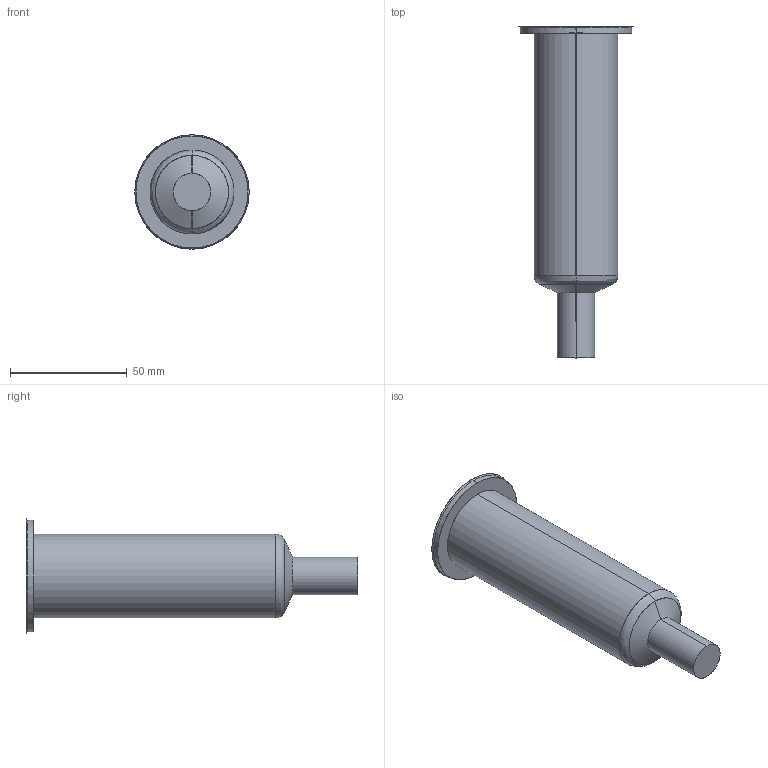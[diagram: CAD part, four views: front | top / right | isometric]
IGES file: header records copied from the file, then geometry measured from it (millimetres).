
Start section: SolidWorks IGES file using analytic representation for surfaces
Global section: file name: C:\Documents and Settings\ws-20\Desktop\TEMPORANEA\Sede UGBE5003-M-A C-114 L-134 P-25.IGS; native system: SolidWorks 2012; preprocessor: SolidWorks 2012; author: ws-20; date: 120307.090744; units: millimetre
Bounding box: 49 x 142.29 x 49 mm (x, y, z)
Surface area: 17663.5 mm2 (no closed solid volume)
Topology: 0 solids, 0 shells, 15 faces, 272 edges, 272 vertices
Faces by surface type: revolution 10, bspline 5
